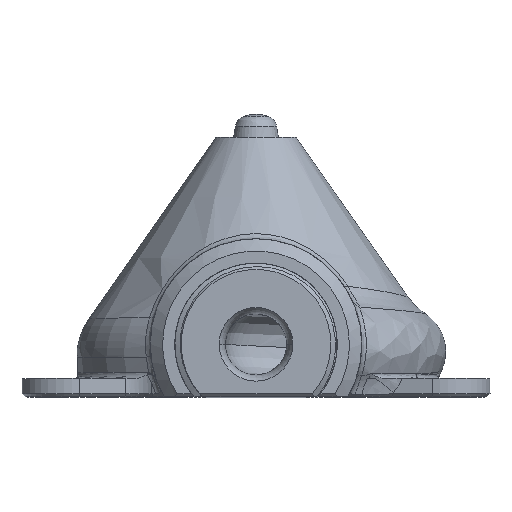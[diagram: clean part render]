
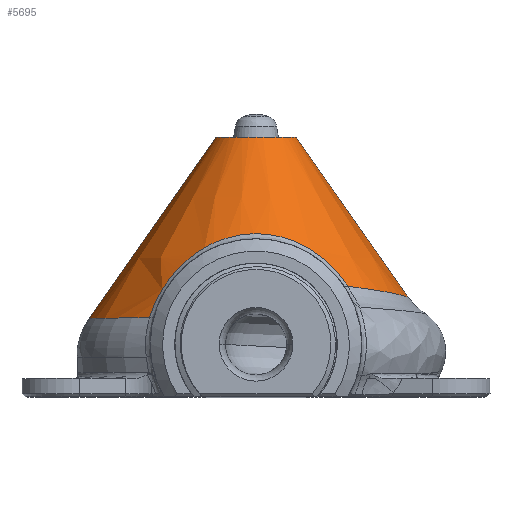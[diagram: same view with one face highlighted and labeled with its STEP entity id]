
A CAD part, top view. The second image highlights one B-rep face of the part: STEP entity #5695.
In plain terms, the highlighted conical face has half-angle 35 degrees and reference radius 16.853 mm.
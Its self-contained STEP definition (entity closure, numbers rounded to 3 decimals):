
#484=CARTESIAN_POINT('',(-17.373,12.867,-24.102));
#485=CARTESIAN_POINT('',(-17.154,13.582,-24.572));
#486=CARTESIAN_POINT('',(-16.651,14.942,-25.393));
#487=CARTESIAN_POINT('',(-15.765,16.747,-26.299));
#488=CARTESIAN_POINT('',(-14.768,18.37,-26.946));
#489=CARTESIAN_POINT('',(-13.685,19.816,-27.376));
#490=CARTESIAN_POINT('',(-12.561,21.072,-27.63));
#491=CARTESIAN_POINT('',(-11.47,22.108,-27.755));
#492=CARTESIAN_POINT('',(-10.408,22.98,-27.803));
#493=CARTESIAN_POINT('',(-9.263,23.792,-27.8));
#494=CARTESIAN_POINT('',(-7.997,24.548,-27.755));
#495=CARTESIAN_POINT('',(-6.741,25.163,-27.688));
#496=CARTESIAN_POINT('',(-5.578,25.629,-27.622));
#497=CARTESIAN_POINT('',(-4.433,25.998,-27.56));
#498=CARTESIAN_POINT('',(-3.19,26.3,-27.503));
#499=CARTESIAN_POINT('',(-1.913,26.502,-27.461));
#500=CARTESIAN_POINT('',(-0.713,26.599,
-27.44));
#501=CARTESIAN_POINT('',(0.482,26.609,-27.438));
#502=CARTESIAN_POINT('',(1.756,26.522,-27.457));
#503=CARTESIAN_POINT('',(3.016,26.332,-27.496));
#504=CARTESIAN_POINT('',(4.179,26.066,-27.547));
#505=CARTESIAN_POINT('',(5.35,25.712,-27.609));
#506=CARTESIAN_POINT('',(6.631,25.215,-27.682));
#507=CARTESIAN_POINT('',(7.93,24.583,-27.751));
#508=CARTESIAN_POINT('',(9.117,23.884,-27.795));
#509=CARTESIAN_POINT('',(10.227,23.118,-27.805));
#510=CARTESIAN_POINT('',(11.382,22.191,-27.764));
#511=CARTESIAN_POINT('',(12.615,21.025,-27.627));
#512=CARTESIAN_POINT('',(13.864,19.602,-27.325));
#513=CARTESIAN_POINT('',(14.607,18.571,-26.999));
#514=CARTESIAN_POINT('',(14.961,18.028,-26.797));
#516=CARTESIAN_POINT('',(0.,12.867,-45.));
#517=DIRECTION('',(0.,1.,0.));
#518=DIRECTION('',(-1.,0.,0.));
#519=AXIS2_PLACEMENT_3D('',#516,#517,#518);
#521=CARTESIAN_POINT('',(14.961,18.028,-26.797));
#522=CARTESIAN_POINT('',(15.197,17.995,-26.962));
#523=CARTESIAN_POINT('',(15.645,17.935,-27.288));
#524=CARTESIAN_POINT('',(16.247,17.854,-27.762));
#525=CARTESIAN_POINT('',(16.785,17.782,-28.214));
#526=CARTESIAN_POINT('',(17.266,17.717,-28.644));
#527=CARTESIAN_POINT('',(17.703,17.657,-29.056));
#528=CARTESIAN_POINT('',(18.107,17.601,-29.457));
#529=CARTESIAN_POINT('',(18.492,17.548,-29.858));
#530=CARTESIAN_POINT('',(18.866,17.494,-30.266));
#531=CARTESIAN_POINT('',(19.232,17.441,-30.683));
#532=CARTESIAN_POINT('',(19.588,17.388,-31.11));
#533=CARTESIAN_POINT('',(19.935,17.334,-31.547));
#534=CARTESIAN_POINT('',(20.274,17.28,-31.993));
#535=CARTESIAN_POINT('',(20.604,17.227,-32.449));
#536=CARTESIAN_POINT('',(20.923,17.173,-32.913));
#537=CARTESIAN_POINT('',(21.231,17.119,-33.383));
#538=CARTESIAN_POINT('',(21.526,17.064,-33.856));
#539=CARTESIAN_POINT('',(21.808,17.011,-34.334));
#540=CARTESIAN_POINT('',(22.079,16.957,-34.816));
#541=CARTESIAN_POINT('',(22.339,16.904,-35.305));
#542=CARTESIAN_POINT('',(22.587,16.851,-35.8));
#543=CARTESIAN_POINT('',(22.824,16.798,-36.302));
#544=CARTESIAN_POINT('',(23.05,16.746,-36.81));
#545=CARTESIAN_POINT('',(23.264,16.694,-37.322));
#546=CARTESIAN_POINT('',(23.464,16.644,-37.835));
#547=CARTESIAN_POINT('',(23.653,16.595,-38.357));
#548=CARTESIAN_POINT('',(23.839,16.544,-38.914));
#549=CARTESIAN_POINT('',(24.027,16.491,-39.532));
#550=CARTESIAN_POINT('',(24.213,16.437,-40.222));
#551=CARTESIAN_POINT('',(24.392,16.382,-40.986));
#552=CARTESIAN_POINT('',(24.555,16.328,-41.837));
#553=CARTESIAN_POINT('',(24.693,16.281,-42.785));
#554=CARTESIAN_POINT('',(24.79,16.246,-43.832));
#555=CARTESIAN_POINT('',(24.817,16.237,-44.6));
#556=CARTESIAN_POINT('',(24.817,16.237,-45.));
#643=CARTESIAN_POINT('',(14.961,18.028,-26.797));
#1396=CARTESIAN_POINT('',(24.817,16.237,-45.));
#1412=DIRECTION('',(-0.574,0.819,0.));
#1413=VECTOR('',#1412,31.882);
#1414=CARTESIAN_POINT('',(24.817,16.237,-45.));
#1415=LINE('',#1414,#1413);
#1416=DIRECTION('',(0.574,0.819,0.));
#1417=VECTOR('',#1416,35.996);
#1418=CARTESIAN_POINT('',(-27.176,12.867,
-45.));
#1419=LINE('',#1418,#1417);
#1425=CARTESIAN_POINT('',(0.,42.353,-45.));
#1426=DIRECTION('',(0.,-1.,0.));
#1427=DIRECTION('',(1.,0.,0.));
#1428=AXIS2_PLACEMENT_3D('',#1425,#1426,#1427);
#3502=CARTESIAN_POINT('',(6.53,42.353,-45.));
#3503=CARTESIAN_POINT('',(-6.53,42.353,-45.));
#3504=VERTEX_POINT('',#3502);
#3505=VERTEX_POINT('',#3503);
#3510=CARTESIAN_POINT('',(-27.176,12.867,
-45.));
#3511=VERTEX_POINT('',#3510);
#3514=VERTEX_POINT('',#1396);
#3760=VERTEX_POINT('',#643);
#3762=VERTEX_POINT('',#484);
#5677=CARTESIAN_POINT('',(0.,27.61,-45.));
#5678=DIRECTION('',(0.,-1.,0.));
#5679=DIRECTION('',(-1.,0.,0.));
#5680=AXIS2_PLACEMENT_3D('',#5677,#5678,#5679);
#5681=CONICAL_SURFACE('',#5680,16.853,35.);
#5682=ORIENTED_EDGE('',*,*,#5671,.F.);
#5684=ORIENTED_EDGE('',*,*,#5683,.F.);
#5686=ORIENTED_EDGE('',*,*,#5685,.T.);
#5688=ORIENTED_EDGE('',*,*,#5687,.F.);
#5690=ORIENTED_EDGE('',*,*,#5689,.F.);
#5692=ORIENTED_EDGE('',*,*,#5691,.F.);
#5693=EDGE_LOOP('',(#5682,#5684,#5686,#5688,#5690,#5692));
#5694=FACE_OUTER_BOUND('',#5693,.F.);
#5695=ADVANCED_FACE('',(#5694),#5681,.T.);
#515=B_SPLINE_CURVE_WITH_KNOTS('',3,(#484,#485,#486,#487,#488,#489,#490,#491,
#492,#493,#494,#495,#496,#497,#498,#499,#500,#501,#502,#503,#504,#505,#506,#507,
#508,#509,#510,#511,#512,#513,#514),.UNSPECIFIED.,.F.,.F.,(4,1,1,1,1,1,1,1,1,1,
1,1,1,1,1,1,1,1,1,1,1,1,1,1,1,1,1,1,4),(0.,0.036,
0.071,0.107,0.143,0.179,
0.214,0.25,0.286,0.321,0.357,
0.393,0.429,0.464,0.5,0.536,
0.571,0.607,0.643,0.679,
0.714,0.75,0.786,0.821,0.857,
0.893,0.929,0.964,1.),.UNSPECIFIED.);
#520=CIRCLE('',#519,27.176);
#557=B_SPLINE_CURVE_WITH_KNOTS('',3,(#521,#522,#523,#524,#525,#526,#527,#528,
#529,#530,#531,#532,#533,#534,#535,#536,#537,#538,#539,#540,#541,#542,#543,#544,
#545,#546,#547,#548,#549,#550,#551,#552,#553,#554,#555,#556),.UNSPECIFIED.,.F.,
.F.,(4,1,1,1,1,1,1,1,1,1,1,1,1,1,1,1,1,1,1,1,1,1,1,1,1,1,1,1,1,1,1,1,1,4),(0.,
0.03,0.061,0.091,0.121,
0.152,0.182,0.212,0.242,
0.273,0.303,0.333,0.364,
0.394,0.424,0.455,0.485,
0.515,0.545,0.576,0.606,
0.636,0.667,0.697,0.727,
0.758,0.788,0.818,0.848,
0.879,0.909,0.939,0.97,1.),
.UNSPECIFIED.);
#1429=CIRCLE('',#1428,6.53);
#5671=EDGE_CURVE('',#3762,#3760,#515,.T.);
#5683=EDGE_CURVE('',#3511,#3762,#520,.T.);
#5685=EDGE_CURVE('',#3511,#3505,#1419,.T.);
#5687=EDGE_CURVE('',#3504,#3505,#1429,.T.);
#5689=EDGE_CURVE('',#3514,#3504,#1415,.T.);
#5691=EDGE_CURVE('',#3760,#3514,#557,.T.);
